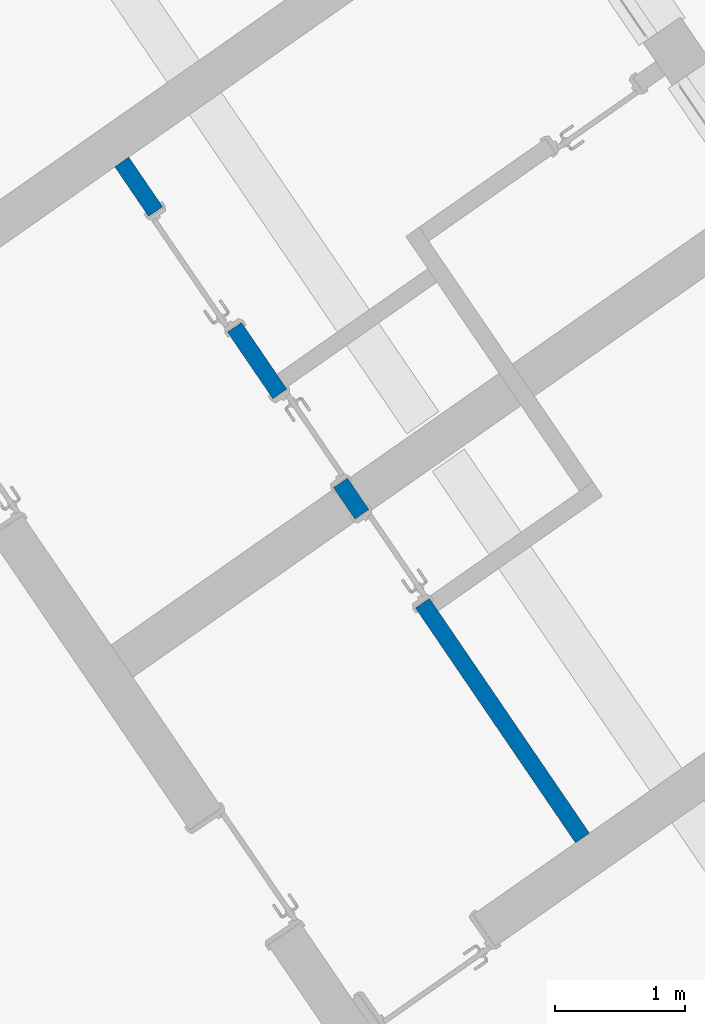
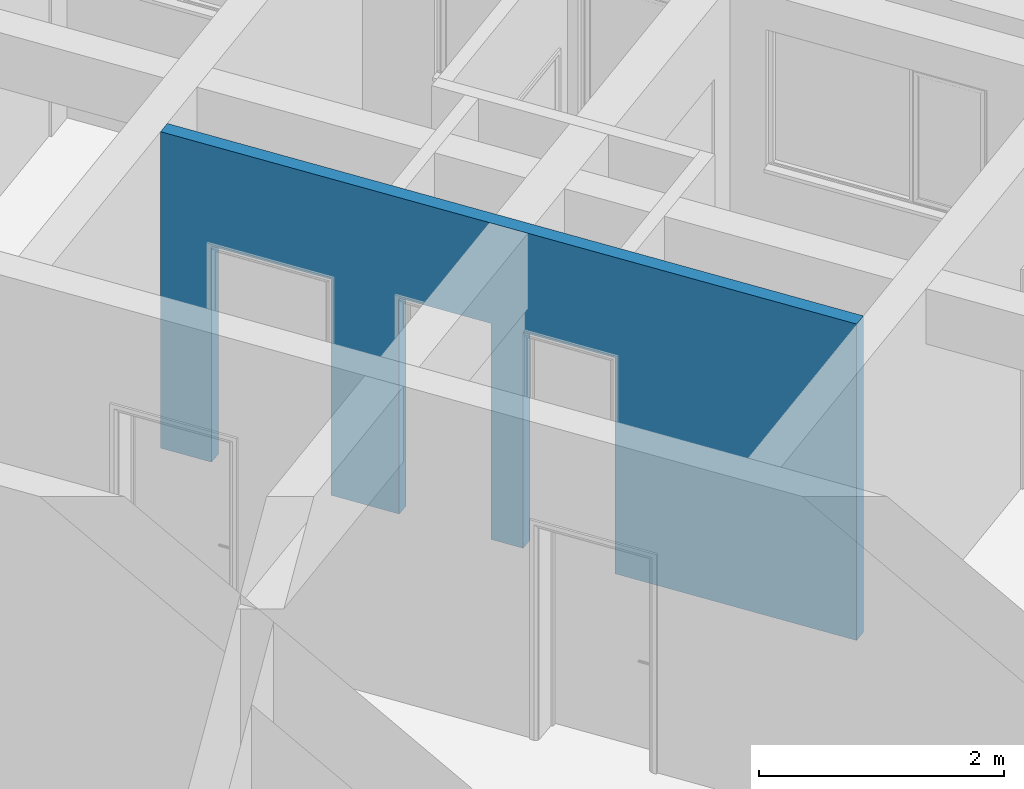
# One storey, part 51 of 112: 1 wall, 3 openings.
"""IFC2X3 building model written with IfcOpenShell, lengths in millimetres."""

from ifc_helpers import new_model, entity, si_unit, converted_unit, derived_unit, direction, frame, frame_2d, origin, place, context, subcontext, project, spatial, polyline, rectangle, outline, extrude, material, layer, layer_set, layer_usage, type_object, element, save


model = new_model("IFC2X3")

# Units and contexts
model_context = context("Model", 3, precision=0.01, world=origin(), true_north=direction((6.123031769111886e-17, 1.0)))
body_context = subcontext(model_context, "Body", "Model", "MODEL_VIEW")
ifc_project = project(units=[si_unit("LENGTHUNIT", "METRE", prefix="MILLI"), si_unit("AREAUNIT", "SQUARE_METRE"), si_unit("VOLUMEUNIT", "CUBIC_METRE"), converted_unit("PLANEANGLEUNIT", "DEGREE", entity("IfcRatioMeasure", 0.017453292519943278), si_unit("PLANEANGLEUNIT", "RADIAN"), dimensions=[0, 0, 0, 0, 0, 0, 0]), si_unit("MASSUNIT", "GRAM", prefix="KILO"), derived_unit("MASSDENSITYUNIT", [(si_unit("MASSUNIT", "GRAM", prefix="KILO"), 1), (si_unit("LENGTHUNIT", "METRE"), -3)]), derived_unit("MOMENTOFINERTIAUNIT", [(si_unit("LENGTHUNIT", "METRE"), 4)]), si_unit("TIMEUNIT", "SECOND"), si_unit("FREQUENCYUNIT", "HERTZ"), si_unit("THERMODYNAMICTEMPERATUREUNIT", "DEGREE_CELSIUS"), derived_unit("THERMALTRANSMITTANCEUNIT", [(si_unit("MASSUNIT", "GRAM", prefix="KILO"), 1), (si_unit("THERMODYNAMICTEMPERATUREUNIT", "KELVIN"), -1), (si_unit("TIMEUNIT", "SECOND"), -3)]), derived_unit("THERMALCONDUCTANCEUNIT", [(si_unit("MASSUNIT", "GRAM", prefix="KILO"), 1), (si_unit("LENGTHUNIT", "METRE"), 1), (si_unit("THERMODYNAMICTEMPERATUREUNIT", "KELVIN"), -1), (si_unit("TIMEUNIT", "SECOND"), -3)]), derived_unit("VOLUMETRICFLOWRATEUNIT", [(si_unit("LENGTHUNIT", "METRE"), 3), (si_unit("TIMEUNIT", "SECOND"), -1)]), derived_unit("MASSFLOWRATEUNIT", [(si_unit("MASSUNIT", "GRAM", prefix="KILO"), 1), (si_unit("TIMEUNIT", "SECOND"), -1)]), derived_unit("ROTATIONALFREQUENCYUNIT", [(si_unit("TIMEUNIT", "SECOND"), -1)]), si_unit("ELECTRICCURRENTUNIT", "AMPERE"), si_unit("ELECTRICVOLTAGEUNIT", "VOLT"), si_unit("POWERUNIT", "WATT"), converted_unit("FORCEUNIT", "KIP", entity("IfcRatioMeasure", 2.088543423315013e-05), si_unit("FORCEUNIT", "NEWTON"), dimensions=[1, 1, -2, 0, 0, 0, 0]), si_unit("ILLUMINANCEUNIT", "LUX"), si_unit("LUMINOUSFLUXUNIT", "LUMEN"), si_unit("LUMINOUSINTENSITYUNIT", "CANDELA"), derived_unit("USERDEFINED", [(si_unit("MASSUNIT", "GRAM", prefix="KILO"), -1), (si_unit("LENGTHUNIT", "METRE"), -2), (si_unit("TIMEUNIT", "SECOND"), 3), (si_unit("LUMINOUSFLUXUNIT", "LUMEN"), 1)]), derived_unit("USERDEFINED", [(si_unit("MASSUNIT", "GRAM", prefix="KILO"), 1), (si_unit("LENGTHUNIT", "METRE"), 3), (si_unit("TIMEUNIT", "SECOND"), -3), (si_unit("ELECTRICCURRENTUNIT", "AMPERE"), -2)]), derived_unit("USERDEFINED", [(si_unit("LENGTHUNIT", "METRE"), 2), (si_unit("TIMEUNIT", "SECOND"), -2)]), derived_unit("SOUNDPOWERUNIT", [(si_unit("MASSUNIT", "GRAM", prefix="KILO"), 1), (si_unit("LENGTHUNIT", "METRE"), 2), (si_unit("TIMEUNIT", "SECOND"), -3)]), derived_unit("SOUNDPRESSUREUNIT", [(si_unit("MASSUNIT", "GRAM", prefix="KILO"), 1), (si_unit("LENGTHUNIT", "METRE"), -1), (si_unit("TIMEUNIT", "SECOND"), -2)]), derived_unit("LINEARVELOCITYUNIT", [(si_unit("LENGTHUNIT", "METRE"), 1), (si_unit("TIMEUNIT", "SECOND"), -1)]), si_unit("PRESSUREUNIT", "PASCAL"), derived_unit("USERDEFINED", [(si_unit("LENGTHUNIT", "METRE"), -2), (si_unit("MASSUNIT", "GRAM", prefix="KILO"), 1), (si_unit("TIMEUNIT", "SECOND"), -2)]), derived_unit("LINEARFORCEUNIT", [(si_unit("MASSUNIT", "GRAM", prefix="KILO"), 1), (si_unit("LENGTHUNIT", "METRE"), 1), (si_unit("TIMEUNIT", "SECOND"), -2), (si_unit("LENGTHUNIT", "METRE"), -1)]), derived_unit("PLANARFORCEUNIT", [(si_unit("MASSUNIT", "GRAM", prefix="KILO"), 1), (si_unit("LENGTHUNIT", "METRE"), 1), (si_unit("TIMEUNIT", "SECOND"), -2), (si_unit("LENGTHUNIT", "METRE"), -2)]), derived_unit("SPECIFICHEATCAPACITYUNIT", [(si_unit("LENGTHUNIT", "METRE"), 2), (si_unit("TIMEUNIT", "SECOND"), -2), (si_unit("THERMODYNAMICTEMPERATUREUNIT", "KELVIN"), -1)]), derived_unit("VAPORPERMEABILITYUNIT", [(si_unit("TIMEUNIT", "SECOND"), 1), (si_unit("LENGTHUNIT", "METRE"), -1)]), derived_unit("DYNAMICVISCOSITYUNIT", [(si_unit("MASSUNIT", "GRAM", prefix="KILO"), 1), (si_unit("LENGTHUNIT", "METRE"), -1), (si_unit("TIMEUNIT", "SECOND"), -1)]), derived_unit("THERMALEXPANSIONCOEFFICIENTUNIT", [(si_unit("THERMODYNAMICTEMPERATUREUNIT", "KELVIN"), -1)])], contexts=[model_context])

# Site, building, storey
site_placement = place(None, frame((0.0, 0.0, 0.0), z_axis=(0.0, 0.0, 1.0), x_axis=(0.8191520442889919, 0.5735764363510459, 0.0)))
site = spatial("IfcSite", under=ifc_project, at=site_placement, Name="Default", CompositionType="ELEMENT")
building_placement = place(site_placement, origin())
building = spatial("IfcBuilding", under=site, at=building_placement, CompositionType="ELEMENT")
storey_placement = place(building_placement, frame((0.0, 0.0, -3600.0)))
storey = spatial("IfcBuildingStorey", under=building, at=storey_placement, Name="0.UG -3.60", CompositionType="ELEMENT", Elevation=-3600.0000000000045)

# Wall, openings
ifc_material = material(Name="Analytical Wall Surface_CJC")
ifc_layer = layer(ifc_material, 130.0)
ifc_layer_set = layer_set([ifc_layer], Name="Basic Wall:Wand_Innen_13")
ifc_layer_usage = layer_usage(ifc_layer_set, "AXIS2", "NEGATIVE", 65.0)
wall_type = type_object("IfcWallType", Name="Basic Wall:Wand_Innen_13", PredefinedType="STANDARD", material=ifc_layer_set)
wall_placement = place(storey_placement, frame((-209510.74538762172, 70245.53149115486, 300.0), z_axis=(0.0, 0.0, 1.0), x_axis=(0.012729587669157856, 0.9999189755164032, 0.0)))
wall = element("IfcWallStandardCase", 1, at=wall_placement, inside=storey, type_object=wall_type, material=ifc_layer_usage, Name="Basic Wall:Wand_Innen_13", ObjectType="Basic Wall:Wand_Innen_13", context=body_context, shape_type="SweptSolid", body=[
    extrude(outline(polyline([(1.6549804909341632, -65.0), (2071.822714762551, -65.0), (2201.8332487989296, -65.0), (2976.8960478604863, -65.0), (3326.9244087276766, -65.0), (4151.991259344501, -65.0), (4277.001388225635, -65.0), (6302.1654760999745, -65.0), (6300.5104956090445, 65.0), (3325.269428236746, 65.0), (2975.241067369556, 65.0), (0.0, 65.0), (1.6549804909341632, -65.0)])), origin(), (0.0, 0.0, 1.0), 3150.0),
])
opening_1_placement = place(wall_placement, frame((3018.8960478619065, 65.0, 0.0)))
element("IfcOpeningElement", 2, at=opening_1_placement, cuts=wall, Name="Doors_IntSgl:75x210:1", ObjectType="Opening", context=body_context, shape_type="SweptSolid", body=[
    extrude(rectangle(XDim=2150.000000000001, YDim=829.9999999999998, at=frame_2d((1075.0000000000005, 415.00000000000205), x_axis=(1.0, 0.0))), frame((0.0, 0.0, 0.0), z_axis=(0.0, -1.0, 0.0), x_axis=(0.0, 0.0, 1.0)), (0.0, 0.0, 1.0), 130.0),
])
opening_2_placement = place(wall_placement, frame((4140.269330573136, 65.0, 0.0)))
element("IfcOpeningElement", 3, at=opening_2_placement, cuts=wall, Name="Doors_IntSgl:75x210:1", ObjectType="Opening", context=body_context, shape_type="SweptSolid", body=[
    extrude(rectangle(XDim=2150.000000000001, YDim=829.9999999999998, at=frame_2d((1075.0000000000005, 414.9999999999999), x_axis=(1.0, 0.0))), frame((0.0, 0.0, 0.0), z_axis=(0.0, -1.0, 0.0), x_axis=(0.0, 0.0, 1.0)), (0.0, 0.0, 1.0), 130.0),
])
opening_3_placement = place(wall_placement, frame((4759.269330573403, -65.0, 0.0)))
element("IfcOpeningElement", 4, at=opening_3_placement, cuts=wall, Name="Doors_IntSgl:100x210:1", ObjectType="Opening", context=body_context, shape_type="SweptSolid", body=[
    extrude(rectangle(XDim=2150.000000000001, YDim=1079.9999999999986, at=frame_2d((1075.0000000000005, 539.9999999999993), x_axis=(1.0, 0.0))), frame((0.0, 0.0, 0.0), z_axis=(0.0, 1.0, 0.0), x_axis=(0.0, 0.0, 1.0)), (0.0, 0.0, 1.0), 130.0),
])

save(model, "model.ifc")
